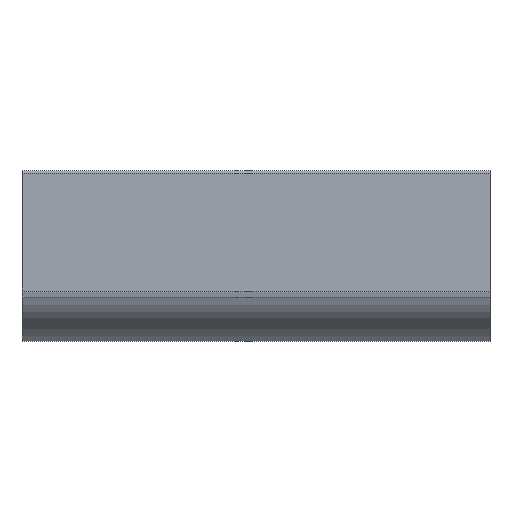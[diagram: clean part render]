
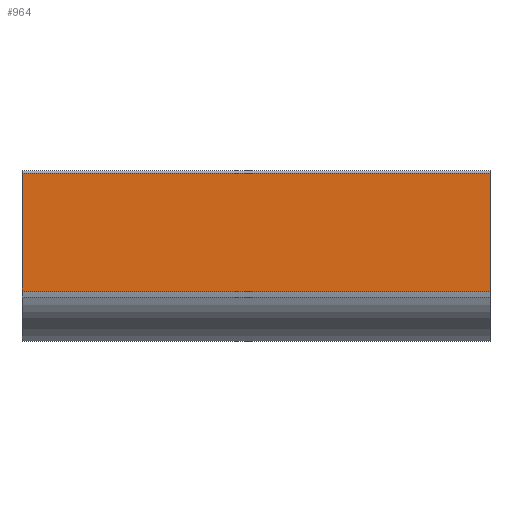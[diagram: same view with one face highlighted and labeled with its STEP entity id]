
A CAD part, top view. The second image highlights one B-rep face of the part: STEP entity #964.
In plain terms, the highlighted planar face has unit normal (0, 0, 1).
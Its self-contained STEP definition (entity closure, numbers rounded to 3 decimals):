
#229 = VECTOR ( 'NONE', #744, 1000. ) ;
#295 = CARTESIAN_POINT ( 'NONE',  ( -100., 0., 16.236 ) ) ;
#744 = DIRECTION ( 'NONE',  ( 0., -1., 0. ) ) ;
#772 = AXIS2_PLACEMENT_3D ( 'NONE', #295, #3184, #827 ) ;
#789 = CARTESIAN_POINT ( 'NONE',  ( 0., -1.127, 16.236 ) ) ;
#807 = FACE_OUTER_BOUND ( 'NONE', #1970, .T. ) ;
#827 = DIRECTION ( 'NONE',  ( 1., 0., 0. ) ) ;
#964 = ADVANCED_FACE ( 'NONE', ( #807 ), #1856, .T. ) ;
#1027 = DIRECTION ( 'NONE',  ( 0., -1., 0. ) ) ;
#1093 = CARTESIAN_POINT ( 'NONE',  ( -100., 24.873, 16.236 ) ) ;
#1270 = CARTESIAN_POINT ( 'NONE',  ( 0., 24.873, 16.236 ) ) ;
#1323 = LINE ( 'NONE', #1843, #2911 ) ;
#1339 = CARTESIAN_POINT ( 'NONE',  ( -100., 24.873, 16.236 ) ) ;
#1420 = EDGE_CURVE ( 'NONE', #2490, #2174, #1536, .T. ) ;
#1451 = ORIENTED_EDGE ( 'NONE', *, *, #1420, .F. ) ;
#1513 = CARTESIAN_POINT ( 'NONE',  ( 0., 0., 16.236 ) ) ;
#1536 = LINE ( 'NONE', #1513, #229 ) ;
#1842 = DIRECTION ( 'NONE',  ( 1., 0., 0. ) ) ;
#1843 = CARTESIAN_POINT ( 'NONE',  ( -100., -1.127, 16.236 ) ) ;
#1856 = PLANE ( 'NONE',  #772 ) ;
#1931 = VECTOR ( 'NONE', #1027, 1000. ) ;
#1970 = EDGE_LOOP ( 'NONE', ( #1451, #2714, #2779, #3381 ) ) ;
#2174 = VERTEX_POINT ( 'NONE', #789 ) ;
#2308 = VERTEX_POINT ( 'NONE', #1093 ) ;
#2490 = VERTEX_POINT ( 'NONE', #1270 ) ;
#2607 = EDGE_CURVE ( 'NONE', #3062, #2174, #1323, .T. ) ;
#2714 = ORIENTED_EDGE ( 'NONE', *, *, #2948, .F. ) ;
#2779 = ORIENTED_EDGE ( 'NONE', *, *, #3106, .T. ) ;
#2874 = CARTESIAN_POINT ( 'NONE',  ( -100., -1.127, 16.236 ) ) ;
#2887 = DIRECTION ( 'NONE',  ( 1., 0., 0. ) ) ;
#2905 = LINE ( 'NONE', #1339, #3200 ) ;
#2911 = VECTOR ( 'NONE', #2887, 1000. ) ;
#2948 = EDGE_CURVE ( 'NONE', #2308, #2490, #2905, .T. ) ;
#3062 = VERTEX_POINT ( 'NONE', #2874 ) ;
#3106 = EDGE_CURVE ( 'NONE', #2308, #3062, #3142, .T. ) ;
#3142 = LINE ( 'NONE', #3159, #1931 ) ;
#3159 = CARTESIAN_POINT ( 'NONE',  ( -100., 0., 16.236 ) ) ;
#3184 = DIRECTION ( 'NONE',  ( 0., 0., 1. ) ) ;
#3200 = VECTOR ( 'NONE', #1842, 1000. ) ;
#3381 = ORIENTED_EDGE ( 'NONE', *, *, #2607, .T. ) ;
